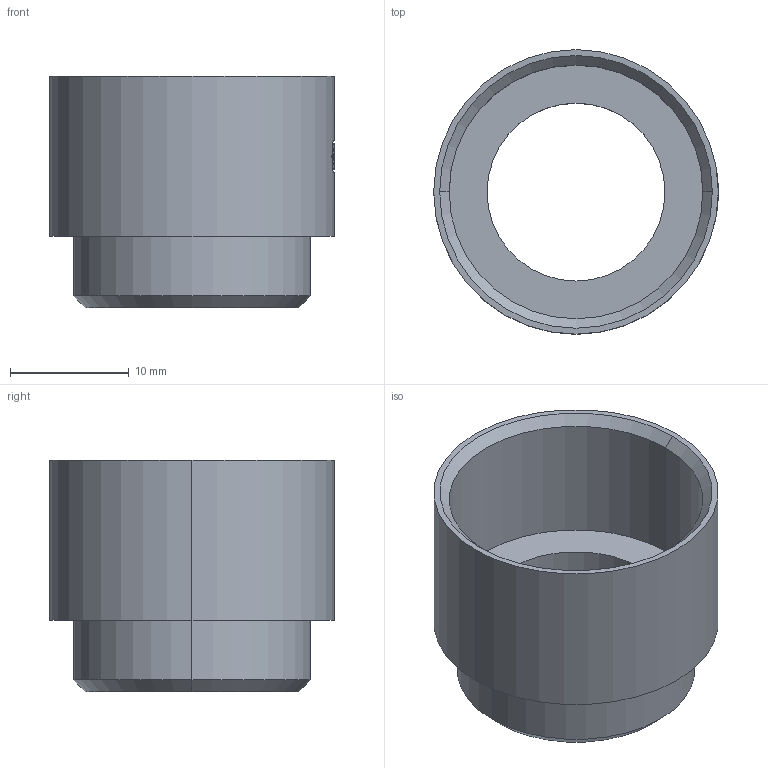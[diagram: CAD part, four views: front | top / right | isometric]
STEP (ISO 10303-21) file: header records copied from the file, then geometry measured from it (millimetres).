
FILE_DESCRIPTION (( 'STEP AP203' ), '1' );
FILE_NAME ('M20PG16-OM.STEP', '2005-10-07T12:01:40', ( ' ' ), ( '' ), 'SwSTEP 2.0', 'SolidWorks 2005143', '' );
FILE_SCHEMA (( 'CONFIG_CONTROL_DESIGN' ));
Length unit declared in the file: millimetre
Products named in the file (1): M20PG16-OM
Bounding box: 24 x 24 x 19.5 mm (x, y, z)
Volume: 2389.2 mm3; surface area: 3031.1 mm2
Topology: 1 solids, 1 shells, 54 faces, 141 edges, 92 vertices
Faces by surface type: plane 38, cylinder 12, cone 4
Entity records: 1768 total; most frequent: CARTESIAN_POINT 348, ORIENTED_EDGE 282, DIRECTION 281, EDGE_CURVE 141, AXIS2_PLACEMENT_3D 105, VERTEX_POINT 92, LINE 71, VECTOR 71
